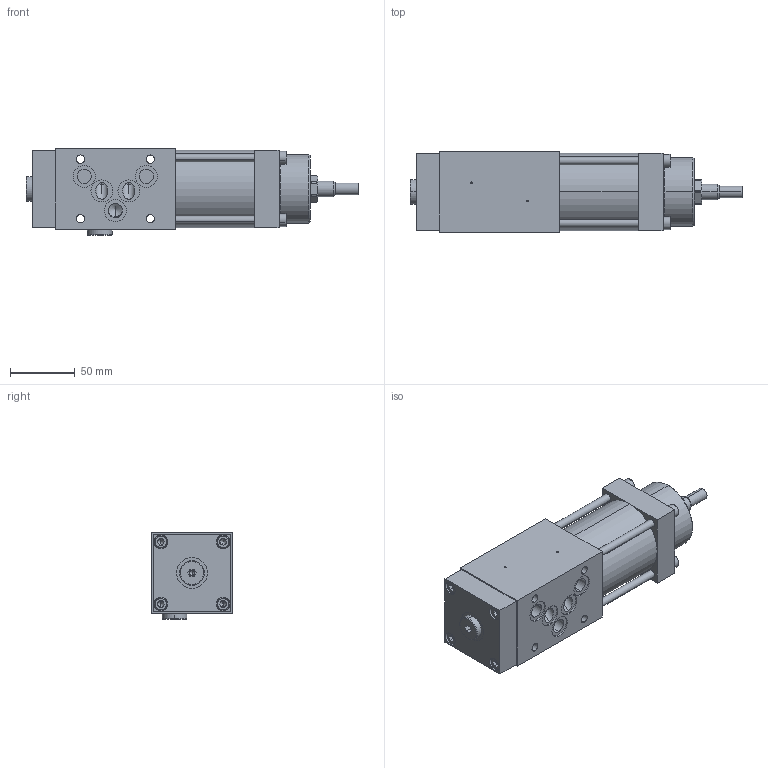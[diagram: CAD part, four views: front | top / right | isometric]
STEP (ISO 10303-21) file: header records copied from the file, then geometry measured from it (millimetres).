
FILE_DESCRIPTION (( 'STEP AP214' ), '1' );
FILE_NAME ('ADRVd10.STEP', '2017-03-22T13:39:47', ( '' ), ( '' ), 'SwSTEP 2.0', 'SolidWorks 2016', '' );
FILE_SCHEMA (( 'AUTOMOTIVE_DESIGN' ));
Length unit declared in the file: millimetre
Products named in the file (1): ADRVd10
Bounding box: 256.5 x 62 x 66.7 mm (x, y, z)
Volume: 709722.1 mm3; surface area: 82526.4 mm2
Topology: 6 solids, 7 shells, 476 faces, 1089 edges, 654 vertices
Faces by surface type: plane 205, cylinder 147, cone 84, torus 40
Entity records: 18897 total; most frequent: CARTESIAN_POINT 2822, DIRECTION 2405, ORIENTED_EDGE 2114, EDGE_CURVE 1057, AXIS2_PLACEMENT_3D 941, VERTEX_POINT 654, EDGE_LOOP 563, VECTOR 523
